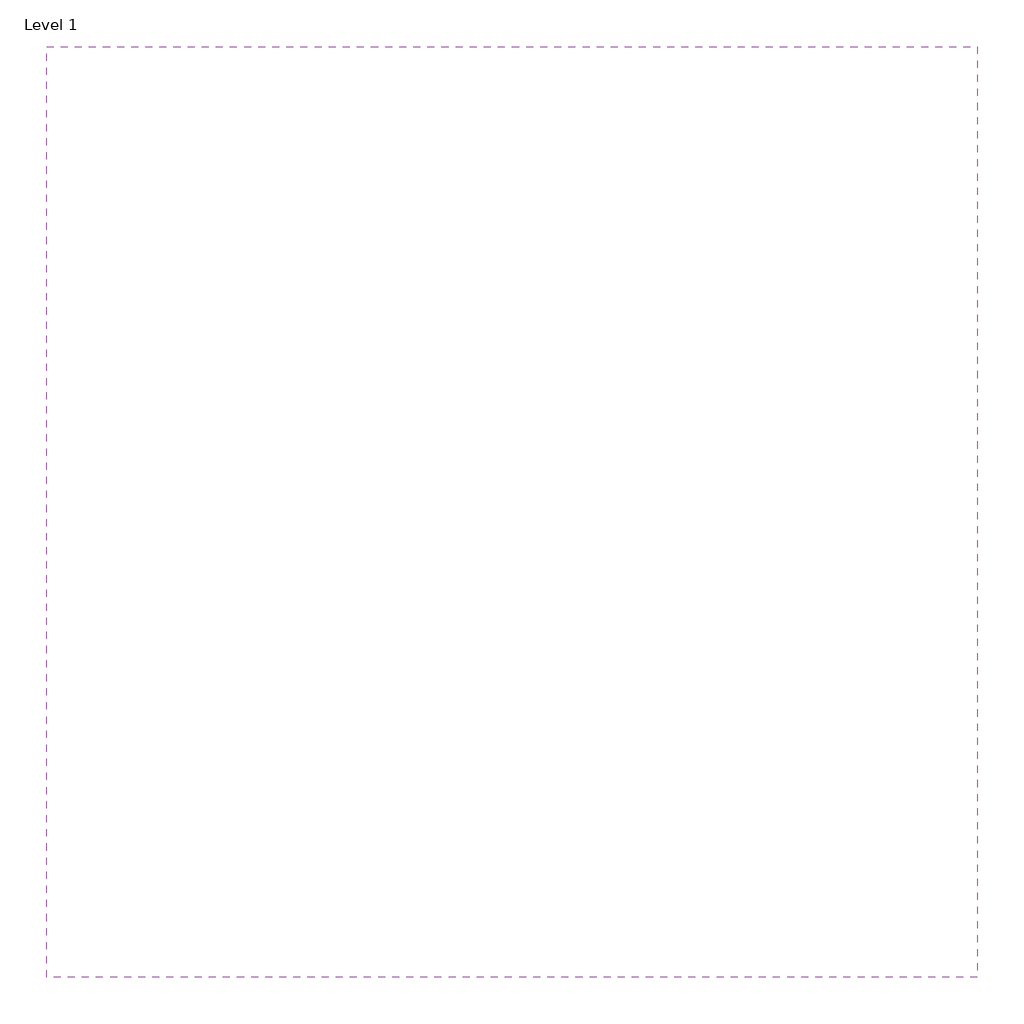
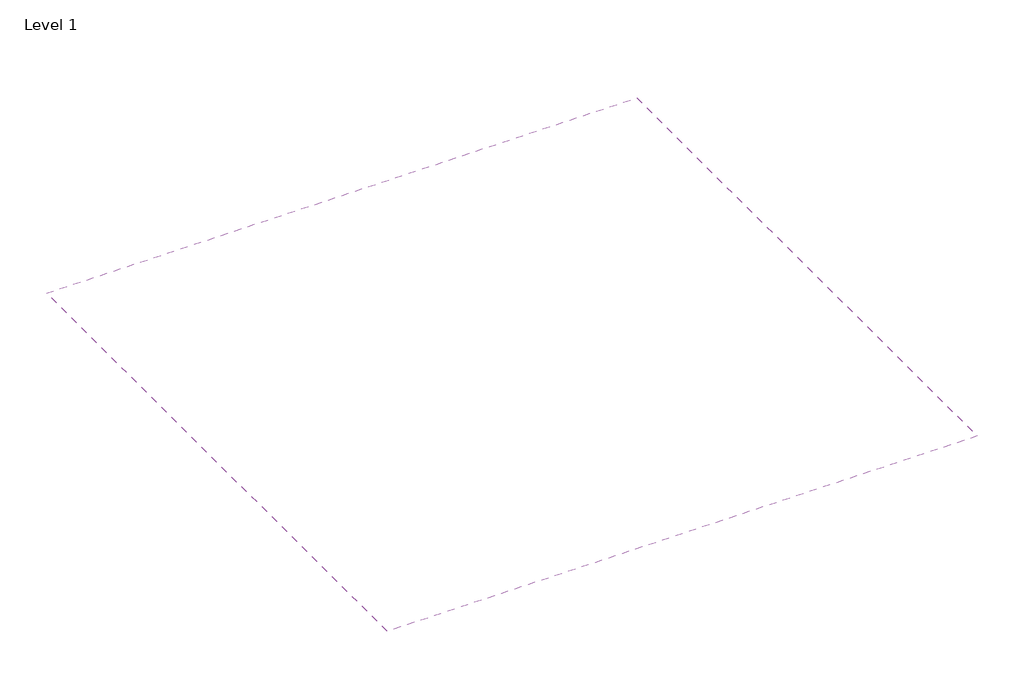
# One storey: 1 covering.
"""IFC4 building model written with IfcOpenShell, lengths in millimetres."""

from ifc_helpers import new_model, si_unit, frame, origin, place, context, project, spatial, polyline, outline, extrude, element, save

model = new_model("IFC4")

# Units and contexts
model_context = context("Model", 3, world=origin())
ifc_project = project(units=[si_unit("LENGTHUNIT", "METRE", prefix="MILLI")], contexts=[model_context])

# Site, building, storey
site = spatial("IfcSite", under=ifc_project)
building = spatial("IfcBuilding", under=site)
storey = spatial("IfcBuildingStorey", under=building, Name="Level 1", Elevation=0.0)

# Covering
placement = place(None, origin())
element("IfcCovering", 1, ObjectType="Gyptec Teto 92 BA13Protect", at=placement, inside=storey, context=model_context, shape_type="SweptSolid", body=[
    extrude(outline(polyline([(567.8596211, 490.7407393), (567.8596211, -509.2592607), (-432.1403789, -509.2592607), (-432.1403789, 490.7407393), (567.8596211, 490.7407393)])), frame((0.0, 0.0, 2587.5), z_axis=(0.0, 0.0, 1.0), x_axis=(1.0, 0.0, 0.0)), (0.0, 0.0, 1.0), 92.0),
])

save(model, "model.ifc")
